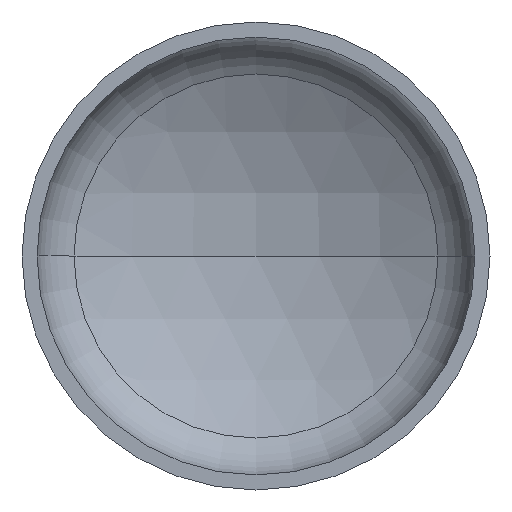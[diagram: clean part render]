
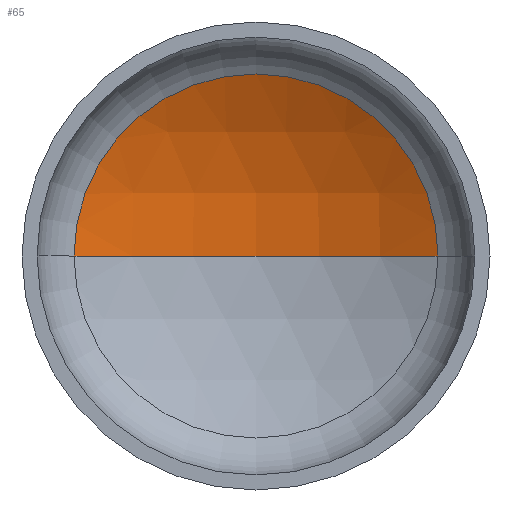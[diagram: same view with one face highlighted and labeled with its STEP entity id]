
A CAD part, front view. The second image highlights one B-rep face of the part: STEP entity #65.
In plain terms, the highlighted spherical face has radius 2240 mm.
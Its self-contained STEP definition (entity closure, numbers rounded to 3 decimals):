
#2 = DIRECTION ( 'NONE',  ( 1., 0., 0. ) ) ;
#6 = VERTEX_POINT ( 'NONE', #233 ) ;
#14 = AXIS2_PLACEMENT_3D ( 'NONE', #228, #349, #374 ) ;
#18 = AXIS2_PLACEMENT_3D ( 'NONE', #177, #377, #2 ) ;
#20 = AXIS2_PLACEMENT_3D ( 'NONE', #170, #140, #141 ) ;
#21 = AXIS2_PLACEMENT_3D ( 'NONE', #196, #192, #193 ) ;
#54 = EDGE_CURVE ( 'NONE', #266, #292, #250, .T. ) ;
#55 = EDGE_CURVE ( 'NONE', #6, #266, #181, .T. ) ;
#57 = EDGE_CURVE ( 'NONE', #6, #292, #395, .T. ) ;
#65 = ADVANCED_FACE ( 'NONE', ( #244 ), #96, .F. ) ;
#76 = ORIENTED_EDGE ( 'NONE', *, *, #57, .F. ) ;
#96 = SPHERICAL_SURFACE ( 'NONE', #14, 2240. ) ;
#127 = CARTESIAN_POINT ( 'NONE',  ( -1089.061, 475.757, 0. ) ) ;
#134 = CARTESIAN_POINT ( 'NONE',  ( 1089.061, 475.757, 0. ) ) ;
#140 = DIRECTION ( 'NONE',  ( 0., 0., -1. ) ) ;
#141 = DIRECTION ( 'NONE',  ( -1., 0., 0. ) ) ;
#170 = CARTESIAN_POINT ( 'NONE',  ( 0., -1481.676, 0. ) ) ;
#177 = CARTESIAN_POINT ( 'NONE',  ( 0., -1481.676, 0. ) ) ;
#181 = CIRCLE ( 'NONE', #20, 2240. ) ;
#192 = DIRECTION ( 'NONE',  ( 0., -1., 0. ) ) ;
#193 = DIRECTION ( 'NONE',  ( 1., 0., 0. ) ) ;
#196 = CARTESIAN_POINT ( 'NONE',  ( 0., 475.757, 0. ) ) ;
#226 = ORIENTED_EDGE ( 'NONE', *, *, #54, .T. ) ;
#228 = CARTESIAN_POINT ( 'NONE',  ( 0., -1481.676, 0. ) ) ;
#233 = CARTESIAN_POINT ( 'NONE',  ( 0., 758.324, 0. ) ) ;
#244 = FACE_OUTER_BOUND ( 'NONE', #278, .T. ) ;
#250 = CIRCLE ( 'NONE', #21, 1089.061 ) ;
#266 = VERTEX_POINT ( 'NONE', #134 ) ;
#278 = EDGE_LOOP ( 'NONE', ( #76, #352, #226 ) ) ;
#292 = VERTEX_POINT ( 'NONE', #127 ) ;
#349 = DIRECTION ( 'NONE',  ( 0., 0., -1. ) ) ;
#352 = ORIENTED_EDGE ( 'NONE', *, *, #55, .T. ) ;
#374 = DIRECTION ( 'NONE',  ( -1., 0., 0. ) ) ;
#377 = DIRECTION ( 'NONE',  ( 0., 0., 1. ) ) ;
#395 = CIRCLE ( 'NONE', #18, 2240. ) ;
